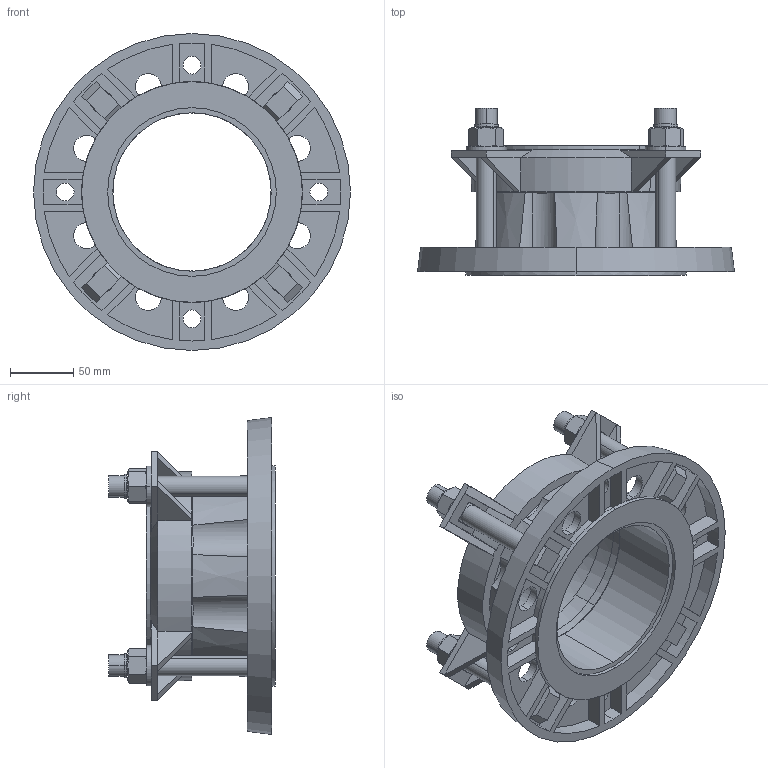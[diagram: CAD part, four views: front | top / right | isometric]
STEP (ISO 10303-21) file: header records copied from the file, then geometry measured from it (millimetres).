
FILE_DESCRIPTION (( 'STEP AP203' ), '1' );
FILE_NAME ('O_623_10_DN125-125mm_X1XXXXX_REV01.step', '2020-04-17T08:35:55', ( '' ), ( '' ), 'SwSTEP 2.0', 'SolidWorks 2019', '' );
FILE_SCHEMA (( 'CONFIG_CONTROL_DESIGN' ));
Length unit declared in the file: millimetre
Products named in the file (1): O_623_10_DN125-125mm_X1XXXXX_REV01
Bounding box: 250 x 131.5 x 250 mm (x, y, z)
Volume: 1157640.7 mm3; surface area: 264828.6 mm2
Topology: 1 solids, 1 shells, 512 faces, 1314 edges, 826 vertices
Faces by surface type: plane 263, cylinder 164, cone 83, bspline 2
Entity records: 16338 total; most frequent: CARTESIAN_POINT 3822, ORIENTED_EDGE 2628, DIRECTION 2580, EDGE_CURVE 1314, AXIS2_PLACEMENT_3D 994, VERTEX_POINT 826, LINE 592, VECTOR 592
